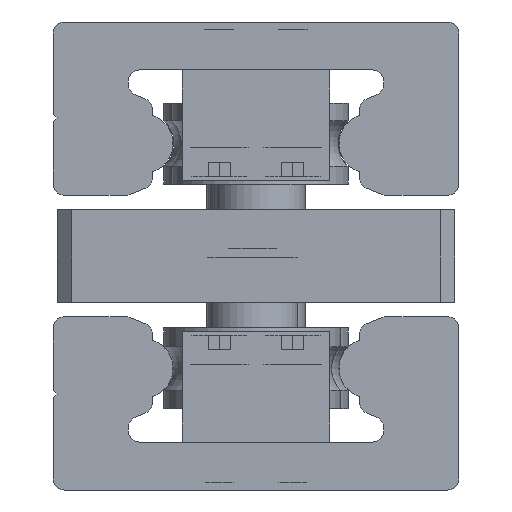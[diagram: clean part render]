
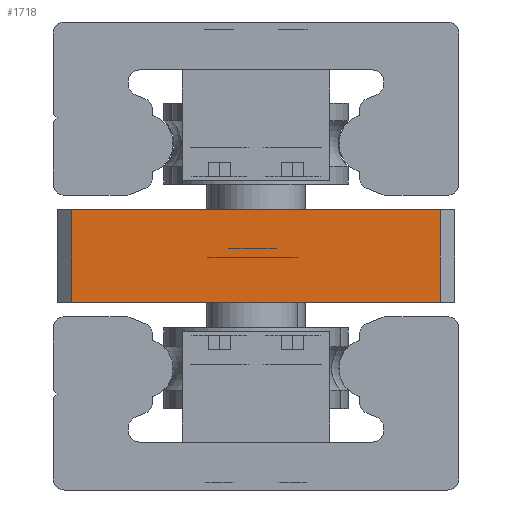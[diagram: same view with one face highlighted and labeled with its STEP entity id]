
A CAD part, left-side view. The second image highlights one B-rep face of the part: STEP entity #1718.
In plain terms, the highlighted planar face has unit normal (-1, 0, 0).
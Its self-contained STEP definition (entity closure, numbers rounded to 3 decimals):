
#199 = DIRECTION ( 'NONE',  ( 0., 0., -1. ) ) ;
#422 = VERTEX_POINT ( 'NONE', #4588 ) ;
#439 = CARTESIAN_POINT ( 'NONE',  ( 0., 25., 21.5 ) ) ;
#761 = CARTESIAN_POINT ( 'NONE',  ( 0., 27., 21.5 ) ) ;
#840 = ORIENTED_EDGE ( 'NONE', *, *, #6078, .F. ) ;
#908 = VECTOR ( 'NONE', #7273, 1000. ) ;
#1511 = LINE ( 'NONE', #761, #2890 ) ;
#1718 = ADVANCED_FACE ( 'NONE', ( #5423 ), #4033, .F. ) ;
#1923 = VECTOR ( 'NONE', #199, 1000. ) ;
#2362 = EDGE_CURVE ( 'NONE', #422, #9125, #4433, .T. ) ;
#2383 = AXIS2_PLACEMENT_3D ( 'NONE', #3341, #7660, #4819 ) ;
#2386 = CARTESIAN_POINT ( 'NONE',  ( 0., 25., 18.375 ) ) ;
#2890 = VECTOR ( 'NONE', #7741, 1000. ) ;
#3341 = CARTESIAN_POINT ( 'NONE',  ( 0., 0., 15.25 ) ) ;
#3616 = EDGE_LOOP ( 'NONE', ( #5620, #840, #5670, #5358 ) ) ;
#3641 = VERTEX_POINT ( 'NONE', #439 ) ;
#3932 = VERTEX_POINT ( 'NONE', #8476 ) ;
#3939 = EDGE_CURVE ( 'NONE', #3932, #3641, #5895, .T. ) ;
#3956 = LINE ( 'NONE', #5887, #7586 ) ;
#4033 = PLANE ( 'NONE',  #2383 ) ;
#4433 = LINE ( 'NONE', #7331, #1923 ) ;
#4588 = CARTESIAN_POINT ( 'NONE',  ( 0., -25., 21.5 ) ) ;
#4819 = DIRECTION ( 'NONE',  ( 0., 0., -1. ) ) ;
#5358 = ORIENTED_EDGE ( 'NONE', *, *, #8193, .F. ) ;
#5423 = FACE_OUTER_BOUND ( 'NONE', #3616, .T. ) ;
#5620 = ORIENTED_EDGE ( 'NONE', *, *, #3939, .F. ) ;
#5670 = ORIENTED_EDGE ( 'NONE', *, *, #2362, .F. ) ;
#5887 = CARTESIAN_POINT ( 'NONE',  ( 0., -27., 9. ) ) ;
#5895 = LINE ( 'NONE', #2386, #908 ) ;
#6078 = EDGE_CURVE ( 'NONE', #9125, #3932, #3956, .T. ) ;
#6760 = DIRECTION ( 'NONE',  ( 0., 1., 0. ) ) ;
#7273 = DIRECTION ( 'NONE',  ( 0., 0., 1. ) ) ;
#7331 = CARTESIAN_POINT ( 'NONE',  ( 0., -25., 12.125 ) ) ;
#7586 = VECTOR ( 'NONE', #6760, 1000. ) ;
#7660 = DIRECTION ( 'NONE',  ( 1., 0., 0. ) ) ;
#7668 = CARTESIAN_POINT ( 'NONE',  ( 0., -25., 9. ) ) ;
#7741 = DIRECTION ( 'NONE',  ( 0., -1., 0. ) ) ;
#8193 = EDGE_CURVE ( 'NONE', #3641, #422, #1511, .T. ) ;
#8476 = CARTESIAN_POINT ( 'NONE',  ( 0., 25., 9. ) ) ;
#9125 = VERTEX_POINT ( 'NONE', #7668 ) ;
